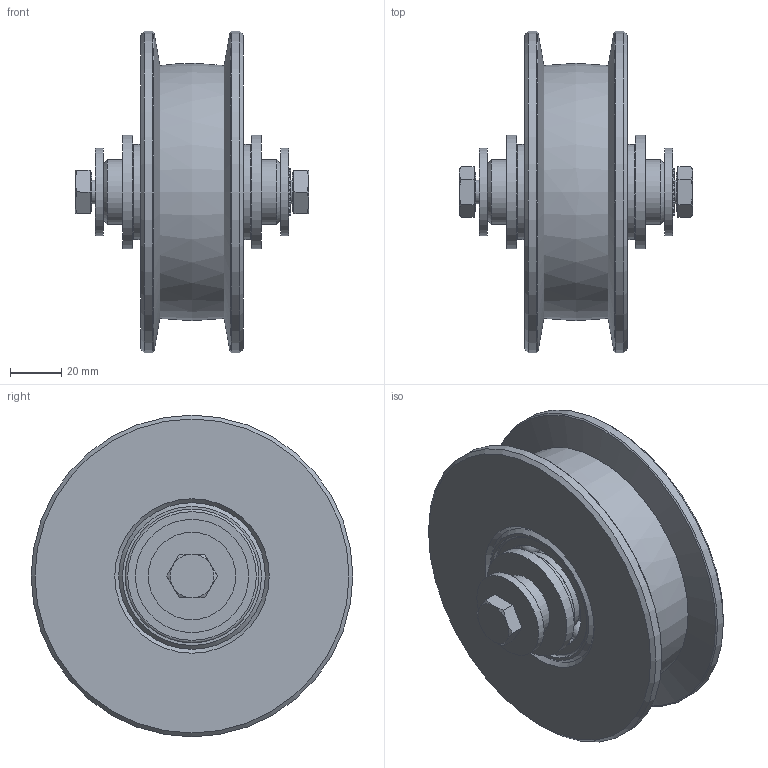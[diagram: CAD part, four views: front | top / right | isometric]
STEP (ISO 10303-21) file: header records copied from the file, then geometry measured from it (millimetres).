
FILE_DESCRIPTION(/* description */ ('Rolle Ø125'),/* implementation_level */ '2;1');
FILE_NAME(/* name */ 'Q:\sge-ma\Produktmanagement-STB\STB\Workspace\stp\010337638.stp',/* time_stamp */ '2016-07-22T07:55:17+02:00',/* author */ ('avschreier'),/* organization */ (''),/* preprocessor_version */ 'ST-DEVELOPER v16.1',/* originating_system */ 'Autodesk Inventor 2016',/* authorisation */ '');
FILE_SCHEMA (('CONFIG_CONTROL_DESIGN'));
Length unit declared in the file: millimetre
Products named in the file (10): 337000147; 337000150; 337000149; 337000145; DIN_625-6205_en; DIN_6798-A_10,5_en; DIN_EN_ISO_4017-M10x20_en; ISO_7094-10_en; DIN_EN_ISO_7090-25_en; 010337638
Assembly tree (14 placements, depth 2):
  010337638
    337000147
    337000150
    337000149  x2
    337000145
    DIN_625-6205_en  x2
    DIN_6798-A_10,5_en
    DIN_EN_ISO_4017-M10x20_en  x2
    ISO_7094-10_en  x2
    DIN_EN_ISO_7090-25_en  x2
Bounding box: 90.8 x 125 x 125 mm (x, y, z)
Volume: 374192.2 mm3; surface area: 97437.5 mm2
Topology: 14 solids, 14 shells, 290 faces, 794 edges, 512 vertices
Faces by surface type: cylinder 105, plane 84, cone 44, torus 40, sphere 16, bspline 1
Full cylindrical faces by diameter (mm): 8.376 x2, 9.188 x2, 10 x2, 10.5 x1, 11 x2, 15.4 x2, 25 x5, 25.5 x3, 33 x1, 33.64 x4, 34 x2, 37 x2, 43.36 x4, 44 x3, 52 x4, 125 x2
Entity records: 7329 total; most frequent: CARTESIAN_POINT 1986, DIRECTION 1138, ORIENTED_EDGE 988, EDGE_CURVE 494, AXIS2_PLACEMENT_3D 483, VERTEX_POINT 353, EDGE_LOOP 301, CIRCLE 245
